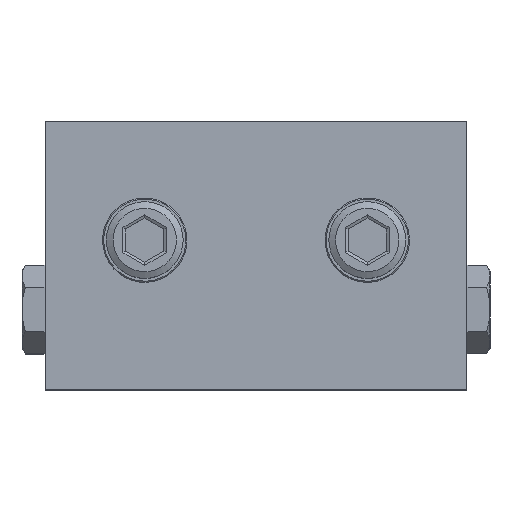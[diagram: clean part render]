
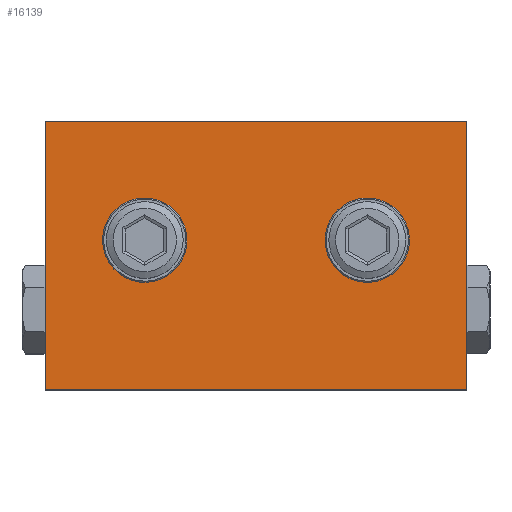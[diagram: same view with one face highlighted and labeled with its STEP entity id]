
A CAD part, top view. The second image highlights one B-rep face of the part: STEP entity #16139.
In plain terms, the highlighted planar face has unit normal (0, 0, 1) as drawn and (0, 0, -1) by its records, which use the part's own axes.
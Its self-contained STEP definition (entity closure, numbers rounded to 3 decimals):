
#184 = EDGE_CURVE ( 'NONE', #8863, #8863, #16445, .T. ) ;
#259 = ORIENTED_EDGE ( 'NONE', *, *, #1787, .F. ) ;
#441 = EDGE_CURVE ( 'NONE', #8434, #17270, #29170, .T. ) ;
#449 = ORIENTED_EDGE ( 'NONE', *, *, #184, .F. ) ;
#1016 = ORIENTED_EDGE ( 'NONE', *, *, #12325, .F. ) ;
#1472 = ORIENTED_EDGE ( 'NONE', *, *, #2169, .F. ) ;
#1787 = EDGE_CURVE ( 'NONE', #22755, #22755, #11108, .T. ) ;
#2169 = EDGE_CURVE ( 'NONE', #3355, #26410, #10272, .T. ) ;
#2396 = ORIENTED_EDGE ( 'NONE', *, *, #19752, .F. ) ;
#3355 = VERTEX_POINT ( 'NONE', #25706 ) ;
#3695 = DIRECTION ( 'NONE',  ( 0., 0., -1. ) ) ;
#5622 = DIRECTION ( 'NONE',  ( 0., 1., 0. ) ) ;
#6547 = PLANE ( 'NONE',  #22459 ) ;
#6636 = CARTESIAN_POINT ( 'NONE',  ( 27.5, -35., -4.85 ) ) ;
#7755 = AXIS2_PLACEMENT_3D ( 'NONE', #14594, #26368, #23804 ) ;
#8248 = CARTESIAN_POINT ( 'NONE',  ( -14.5, -15.5, -4.85 ) ) ;
#8300 = LINE ( 'NONE', #21888, #23934 ) ;
#8434 = VERTEX_POINT ( 'NONE', #22442 ) ;
#8863 = VERTEX_POINT ( 'NONE', #13824 ) ;
#9111 = FACE_BOUND ( 'NONE', #19957, .T. ) ;
#9659 = VECTOR ( 'NONE', #26597, 1000. ) ;
#10272 = LINE ( 'NONE', #19481, #9659 ) ;
#11108 = CIRCLE ( 'NONE', #7755, 3.1 ) ;
#12325 = EDGE_CURVE ( 'NONE', #17270, #3355, #8300, .T. ) ;
#12519 = DIRECTION ( 'NONE',  ( 0., -1., 0. ) ) ;
#12922 = DIRECTION ( 'NONE',  ( 1., 0., 0. ) ) ;
#13824 = CARTESIAN_POINT ( 'NONE',  ( -11.4, -15.5, -4.85 ) ) ;
#14040 = AXIS2_PLACEMENT_3D ( 'NONE', #8248, #3695, #12922 ) ;
#14594 = CARTESIAN_POINT ( 'NONE',  ( 14.5, -15.5, -4.85 ) ) ;
#14840 = EDGE_LOOP ( 'NONE', ( #259 ) ) ;
#15991 = EDGE_LOOP ( 'NONE', ( #1016, #28432, #2396, #1472 ) ) ;
#16139 = ADVANCED_FACE ( 'NONE', ( #24828, #22997, #9111 ), #6547, .F. ) ;
#16445 = CIRCLE ( 'NONE', #14040, 3.1 ) ;
#17270 = VERTEX_POINT ( 'NONE', #27807 ) ;
#19481 = CARTESIAN_POINT ( 'NONE',  ( 0., -35., -4.85 ) ) ;
#19752 = EDGE_CURVE ( 'NONE', #26410, #8434, #26773, .T. ) ;
#19784 = CARTESIAN_POINT ( 'NONE',  ( 0., 0., -4.85 ) ) ;
#19957 = EDGE_LOOP ( 'NONE', ( #449 ) ) ;
#21785 = CARTESIAN_POINT ( 'NONE',  ( 27.5, 0., -4.85 ) ) ;
#21888 = CARTESIAN_POINT ( 'NONE',  ( -27.5, 0., -4.85 ) ) ;
#22442 = CARTESIAN_POINT ( 'NONE',  ( 27.5, 0., -4.85 ) ) ;
#22459 = AXIS2_PLACEMENT_3D ( 'NONE', #29661, #22562, #24975 ) ;
#22562 = DIRECTION ( 'NONE',  ( 0., 0., 1. ) ) ;
#22755 = VERTEX_POINT ( 'NONE', #27144 ) ;
#22997 = FACE_BOUND ( 'NONE', #14840, .T. ) ;
#23804 = DIRECTION ( 'NONE',  ( -1., 0., 0. ) ) ;
#23934 = VECTOR ( 'NONE', #12519, 1000. ) ;
#24828 = FACE_OUTER_BOUND ( 'NONE', #15991, .T. ) ;
#24975 = DIRECTION ( 'NONE',  ( 1., 0., 0. ) ) ;
#25041 = VECTOR ( 'NONE', #5622, 1000. ) ;
#25579 = VECTOR ( 'NONE', #28711, 1000. ) ;
#25706 = CARTESIAN_POINT ( 'NONE',  ( -27.5, -35., -4.85 ) ) ;
#26368 = DIRECTION ( 'NONE',  ( 0., 0., -1. ) ) ;
#26410 = VERTEX_POINT ( 'NONE', #6636 ) ;
#26597 = DIRECTION ( 'NONE',  ( 1., 0., 0. ) ) ;
#26773 = LINE ( 'NONE', #21785, #25041 ) ;
#27144 = CARTESIAN_POINT ( 'NONE',  ( 11.4, -15.5, -4.85 ) ) ;
#27807 = CARTESIAN_POINT ( 'NONE',  ( -27.5, 0., -4.85 ) ) ;
#28432 = ORIENTED_EDGE ( 'NONE', *, *, #441, .F. ) ;
#28711 = DIRECTION ( 'NONE',  ( -1., 0., 0. ) ) ;
#29170 = LINE ( 'NONE', #19784, #25579 ) ;
#29661 = CARTESIAN_POINT ( 'NONE',  ( 0., 0., -4.85 ) ) ;
